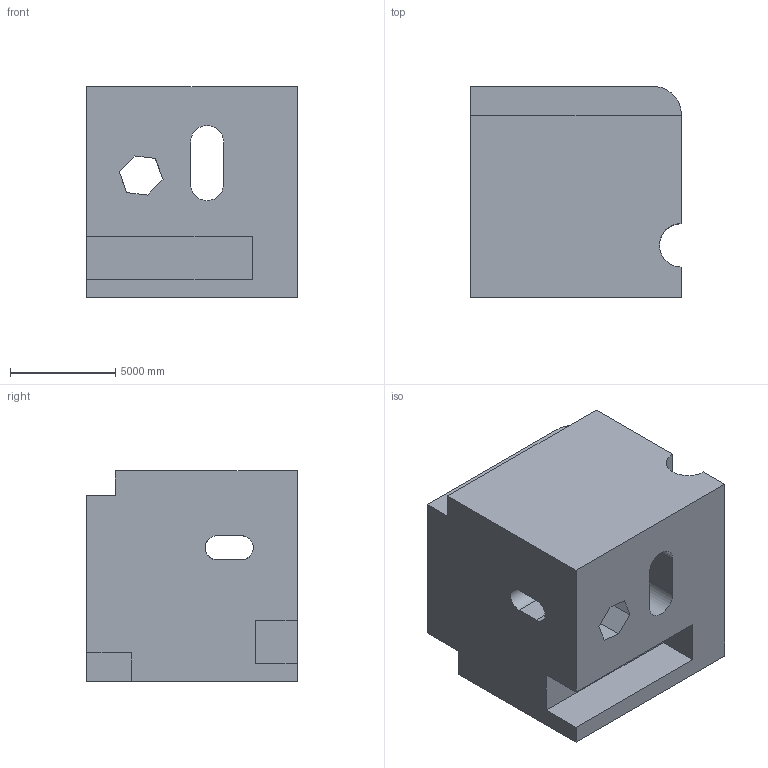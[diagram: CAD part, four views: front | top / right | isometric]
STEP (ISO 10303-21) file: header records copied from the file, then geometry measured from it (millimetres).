
FILE_DESCRIPTION (( 'STEP AP203' ), '1' );
FILE_NAME ('852.STEP', '2022-08-04T16:00:58', ( 'user' ), ( '' ), 'SwSTEP 2.0', 'SolidWorks 2021', '' );
FILE_SCHEMA (( 'CONFIG_CONTROL_DESIGN' ));
Length unit declared in the file: centimetre
Products named in the file (1): 852
Bounding box: 10000 x 10000 x 10000 mm (x, y, z)
Volume: 814544659927.3 mm3; surface area: 803065963.4 mm2
Topology: 1 solids, 1 shells, 44 faces, 132 edges, 88 vertices
Faces by surface type: plane 35, cylinder 9
Entity records: 1685 total; most frequent: CARTESIAN_POINT 404, ORIENTED_EDGE 264, DIRECTION 232, EDGE_CURVE 132, VECTOR 104, LINE 104, VERTEX_POINT 88, AXIS2_PLACEMENT_3D 64
